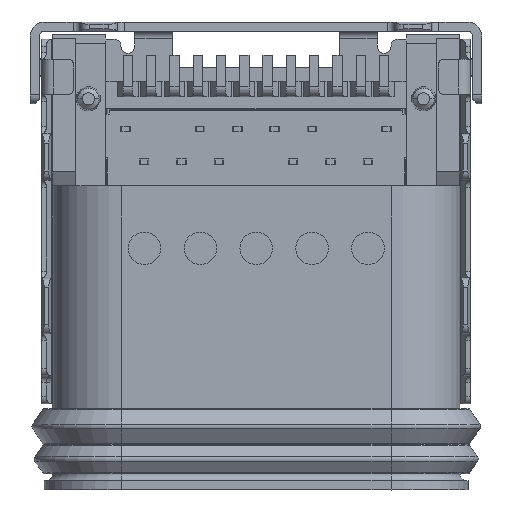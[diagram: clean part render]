
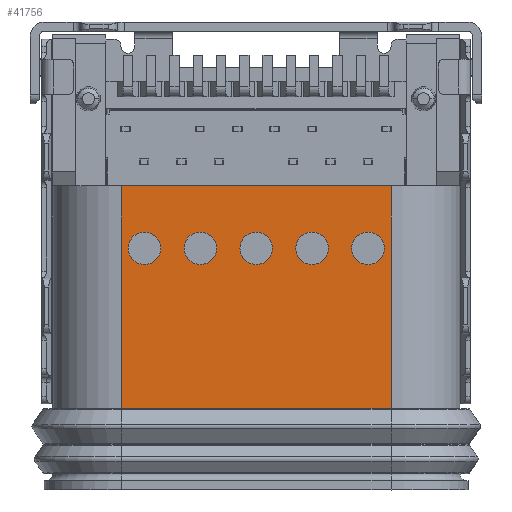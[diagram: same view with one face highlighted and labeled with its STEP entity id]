
A CAD part, front view. The second image highlights one B-rep face of the part: STEP entity #41756.
In plain terms, the highlighted planar face has unit normal (0, -1, 0).
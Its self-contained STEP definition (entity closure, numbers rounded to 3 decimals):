
#40923=DIRECTION('',(1.,0.,0.));
#40924=VECTOR('',#40923,5.79);
#40925=CARTESIAN_POINT('',(-2.442,-2.04,
11.988));
#40926=LINE('',#40925,#40924);
#40927=CARTESIAN_POINT('',(-0.747,-2.04,
10.648));
#40928=DIRECTION('',(0.,-1.,0.));
#40929=DIRECTION('',(0.,0.,-1.));
#40930=AXIS2_PLACEMENT_3D('',#40927,#40928,#40929);
#40932=CARTESIAN_POINT('',(-0.747,-2.04,
10.648));
#40933=DIRECTION('',(0.,-1.,0.));
#40934=DIRECTION('',(0.,0.,1.));
#40935=AXIS2_PLACEMENT_3D('',#40932,#40933,#40934);
#40937=CARTESIAN_POINT('',(0.453,-2.04,
10.648));
#40938=DIRECTION('',(0.,-1.,0.));
#40939=DIRECTION('',(0.,0.,-1.));
#40940=AXIS2_PLACEMENT_3D('',#40937,#40938,#40939);
#40942=CARTESIAN_POINT('',(0.453,-2.04,
10.648));
#40943=DIRECTION('',(0.,-1.,0.));
#40944=DIRECTION('',(0.,0.,1.));
#40945=AXIS2_PLACEMENT_3D('',#40942,#40943,#40944);
#40947=CARTESIAN_POINT('',(1.653,-2.04,
10.648));
#40948=DIRECTION('',(0.,-1.,0.));
#40949=DIRECTION('',(0.,0.,-1.));
#40950=AXIS2_PLACEMENT_3D('',#40947,#40948,#40949);
#40952=CARTESIAN_POINT('',(1.653,-2.04,
10.648));
#40953=DIRECTION('',(0.,-1.,0.));
#40954=DIRECTION('',(0.,0.,1.));
#40955=AXIS2_PLACEMENT_3D('',#40952,#40953,#40954);
#40957=CARTESIAN_POINT('',(2.853,-2.04,
10.648));
#40958=DIRECTION('',(0.,-1.,0.));
#40959=DIRECTION('',(0.,0.,-1.));
#40960=AXIS2_PLACEMENT_3D('',#40957,#40958,#40959);
#40962=CARTESIAN_POINT('',(2.853,-2.04,
10.648));
#40963=DIRECTION('',(0.,-1.,0.));
#40964=DIRECTION('',(0.,0.,1.));
#40965=AXIS2_PLACEMENT_3D('',#40962,#40963,#40964);
#40967=CARTESIAN_POINT('',(-1.947,-2.04,
10.648));
#40968=DIRECTION('',(0.,-1.,0.));
#40969=DIRECTION('',(0.,0.,-1.));
#40970=AXIS2_PLACEMENT_3D('',#40967,#40968,#40969);
#40972=CARTESIAN_POINT('',(-1.947,-2.04,
10.648));
#40973=DIRECTION('',(0.,-1.,0.));
#40974=DIRECTION('',(0.,0.,1.));
#40975=AXIS2_PLACEMENT_3D('',#40972,#40973,#40974);
#40977=DIRECTION('',(0.,0.,-1.));
#40978=VECTOR('',#40977,6.18);
#40979=CARTESIAN_POINT('',(-2.442,-2.04,
11.988));
#40980=LINE('',#40979,#40978);
#41004=DIRECTION('',(1.,0.,0.));
#41005=VECTOR('',#41004,5.79);
#41006=CARTESIAN_POINT('',(-2.442,-2.04,
5.808));
#41007=LINE('',#41006,#41005);
#41308=DIRECTION('',(0.,0.,1.));
#41309=VECTOR('',#41308,6.18);
#41310=CARTESIAN_POINT('',(3.348,-2.04,
5.808));
#41311=LINE('',#41310,#41309);
#41535=CARTESIAN_POINT('',(1.653,-2.04,
10.298));
#41536=VERTEX_POINT('',#41535);
#41537=CARTESIAN_POINT('',(1.653,-2.04,
10.998));
#41538=VERTEX_POINT('',#41537);
#41539=CARTESIAN_POINT('',(-2.442,-2.04,
11.988));
#41540=CARTESIAN_POINT('',(-2.442,-2.04,
5.808));
#41541=VERTEX_POINT('',#41539);
#41542=VERTEX_POINT('',#41540);
#41543=CARTESIAN_POINT('',(3.348,-2.04,
11.988));
#41544=VERTEX_POINT('',#41543);
#41545=CARTESIAN_POINT('',(3.348,-2.04,
5.808));
#41546=VERTEX_POINT('',#41545);
#41547=CARTESIAN_POINT('',(-0.747,-2.04,
10.298));
#41548=CARTESIAN_POINT('',(-0.747,-2.04,
10.998));
#41549=VERTEX_POINT('',#41547);
#41550=VERTEX_POINT('',#41548);
#41551=CARTESIAN_POINT('',(0.453,-2.04,
10.298));
#41552=CARTESIAN_POINT('',(0.453,-2.04,
10.998));
#41553=VERTEX_POINT('',#41551);
#41554=VERTEX_POINT('',#41552);
#41555=CARTESIAN_POINT('',(2.853,-2.04,
10.298));
#41556=CARTESIAN_POINT('',(2.853,-2.04,
10.998));
#41557=VERTEX_POINT('',#41555);
#41558=VERTEX_POINT('',#41556);
#41559=CARTESIAN_POINT('',(-1.947,-2.04,
10.298));
#41560=CARTESIAN_POINT('',(-1.947,-2.04,
10.998));
#41561=VERTEX_POINT('',#41559);
#41562=VERTEX_POINT('',#41560);
#41713=CARTESIAN_POINT('',(0.453,-2.04,
8.748));
#41714=DIRECTION('',(0.,1.,0.));
#41715=DIRECTION('',(0.,0.,1.));
#41716=AXIS2_PLACEMENT_3D('',#41713,#41714,#41715);
#41717=PLANE('',#41716);
#41719=ORIENTED_EDGE('',*,*,#41718,.F.);
#41721=ORIENTED_EDGE('',*,*,#41720,.T.);
#41723=ORIENTED_EDGE('',*,*,#41722,.F.);
#41725=ORIENTED_EDGE('',*,*,#41724,.F.);
#41726=EDGE_LOOP('',(#41719,#41721,#41723,#41725));
#41727=FACE_OUTER_BOUND('',#41726,.F.);
#41729=ORIENTED_EDGE('',*,*,#41728,.T.);
#41731=ORIENTED_EDGE('',*,*,#41730,.T.);
#41732=EDGE_LOOP('',(#41729,#41731));
#41733=FACE_BOUND('',#41732,.F.);
#41735=ORIENTED_EDGE('',*,*,#41734,.T.);
#41737=ORIENTED_EDGE('',*,*,#41736,.T.);
#41738=EDGE_LOOP('',(#41735,#41737));
#41739=FACE_BOUND('',#41738,.F.);
#41740=ORIENTED_EDGE('',*,*,#41706,.T.);
#41741=ORIENTED_EDGE('',*,*,#41682,.T.);
#41742=EDGE_LOOP('',(#41740,#41741));
#41743=FACE_BOUND('',#41742,.F.);
#41745=ORIENTED_EDGE('',*,*,#41744,.T.);
#41747=ORIENTED_EDGE('',*,*,#41746,.T.);
#41748=EDGE_LOOP('',(#41745,#41747));
#41749=FACE_BOUND('',#41748,.F.);
#41751=ORIENTED_EDGE('',*,*,#41750,.T.);
#41753=ORIENTED_EDGE('',*,*,#41752,.T.);
#41754=EDGE_LOOP('',(#41751,#41753));
#41755=FACE_BOUND('',#41754,.F.);
#40931=CIRCLE('',#40930,0.35);
#40936=CIRCLE('',#40935,0.35);
#40941=CIRCLE('',#40940,0.35);
#40946=CIRCLE('',#40945,0.35);
#40951=CIRCLE('',#40950,0.35);
#40956=CIRCLE('',#40955,0.35);
#40961=CIRCLE('',#40960,0.35);
#40966=CIRCLE('',#40965,0.35);
#40971=CIRCLE('',#40970,0.35);
#40976=CIRCLE('',#40975,0.35);
#41682=EDGE_CURVE('',#41538,#41536,#40956,.T.);
#41706=EDGE_CURVE('',#41536,#41538,#40951,.T.);
#41718=EDGE_CURVE('',#41541,#41542,#40980,.T.);
#41720=EDGE_CURVE('',#41541,#41544,#40926,.T.);
#41722=EDGE_CURVE('',#41546,#41544,#41311,.T.);
#41724=EDGE_CURVE('',#41542,#41546,#41007,.T.);
#41728=EDGE_CURVE('',#41549,#41550,#40931,.T.);
#41730=EDGE_CURVE('',#41550,#41549,#40936,.T.);
#41734=EDGE_CURVE('',#41553,#41554,#40941,.T.);
#41736=EDGE_CURVE('',#41554,#41553,#40946,.T.);
#41744=EDGE_CURVE('',#41557,#41558,#40961,.T.);
#41746=EDGE_CURVE('',#41558,#41557,#40966,.T.);
#41750=EDGE_CURVE('',#41561,#41562,#40971,.T.);
#41752=EDGE_CURVE('',#41562,#41561,#40976,.T.);
#41756=ADVANCED_FACE('',(#41727,#41733,#41739,#41743,#41749,#41755),#41717,.F.);
